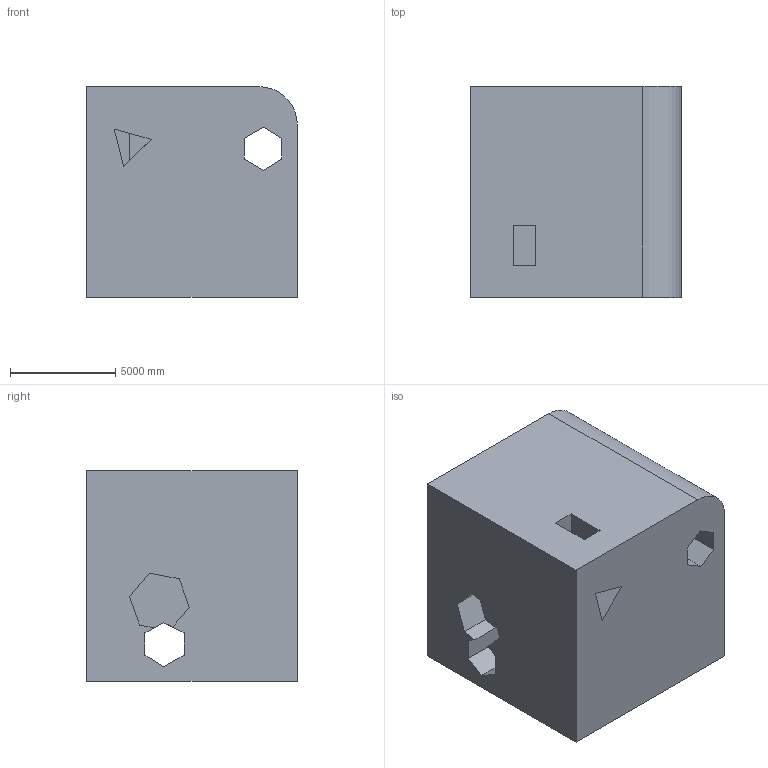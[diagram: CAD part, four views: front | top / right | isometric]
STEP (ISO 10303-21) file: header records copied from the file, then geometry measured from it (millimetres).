
FILE_DESCRIPTION (( 'STEP AP203' ), '1' );
FILE_NAME ('657.STEP', '2022-07-29T12:20:57', ( 'user' ), ( '' ), 'SwSTEP 2.0', 'SolidWorks 2021', '' );
FILE_SCHEMA (( 'CONFIG_CONTROL_DESIGN' ));
Length unit declared in the file: centimetre
Products named in the file (1): 657
Bounding box: 10000 x 10000 x 10000 mm (x, y, z)
Volume: 894535993807.8 mm3; surface area: 793866157 mm2
Topology: 1 solids, 1 shells, 40 faces, 111 edges, 74 vertices
Faces by surface type: plane 39, cylinder 1
Entity records: 1346 total; most frequent: CARTESIAN_POINT 226, ORIENTED_EDGE 222, DIRECTION 195, EDGE_CURVE 111, VECTOR 109, LINE 109, VERTEX_POINT 74, EDGE_LOOP 47
